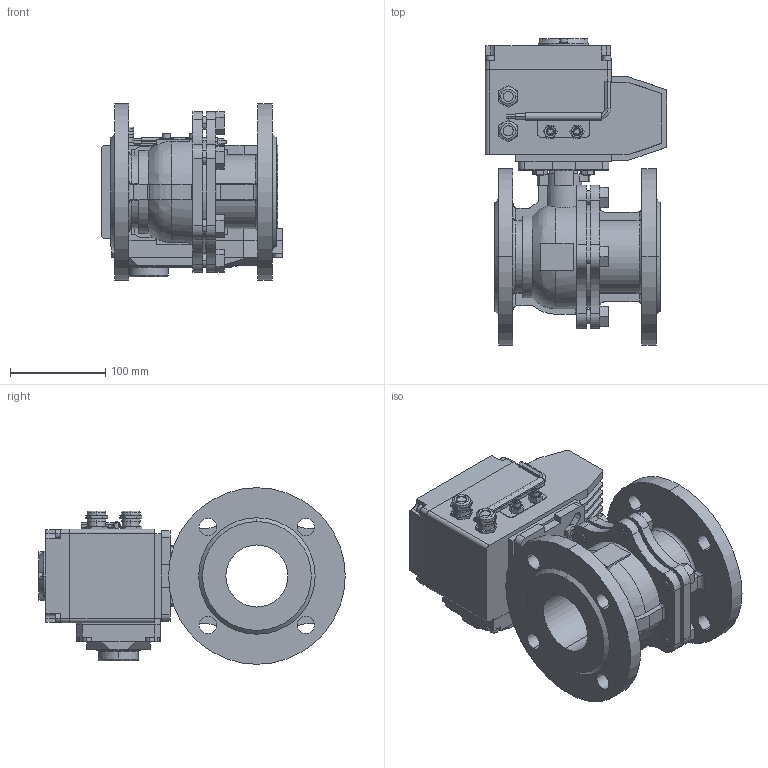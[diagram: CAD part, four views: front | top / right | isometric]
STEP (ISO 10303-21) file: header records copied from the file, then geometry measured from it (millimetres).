
FILE_DESCRIPTION((''),'2;1');
FILE_NAME('BV-22F_EAR_T_ASM','2025-03-03T',('USER'),(''),'PRO/ENGINEER BY PARAMETRIC TECHNOLOGY CORPORATION, 2011220','PRO/ENGINEER BY PARAMETRIC TECHNOLOGY CORPORATION, 2011220','');
FILE_SCHEMA(('CONFIG_CONTROL_DESIGN'));
Length unit declared in the file: millimetre
Products named in the file (15): KORPUS_KRAN_FL; BOLT_M14X25; SB_KRAN_FL_ASM; DET_1; V-11738-M5; V-11738-M4; DET_2; KREPLENIE; KLUCH; DET_3; G-5915-M8; ELECTROPRIVOD_ASM; ELECTROPRIVOD_WITH_DISPLAY_ASM; B-7798-M8-20; BV-22F_EAR_T_ASM
Assembly tree (35 placements, depth 4):
  BV-22F_EAR_T_ASM
    SB_KRAN_FL_ASM
      KORPUS_KRAN_FL
      BOLT_M14X25  x6
    ELECTROPRIVOD_WITH_DISPLAY_ASM
      ELECTROPRIVOD_ASM
        DET_1
        V-11738-M5  x10
        V-11738-M4  x4
        DET_2
        KREPLENIE
        KLUCH
        DET_3
        G-5915-M8  x2
    B-7798-M8-20  x4
Bounding box: 190 x 321 x 185 mm (x, y, z)
Volume: 3772554.4 mm3; surface area: 517009.3 mm2
Topology: 32 solids, 80 shells, 1557 faces, 4061 edges, 2668 vertices
Faces by surface type: plane 966, cylinder 477, cone 86, torus 18, bspline 10
Entity records: 39105 total; most frequent: CARTESIAN_POINT 7653, DIRECTION 6551, ORIENTED_EDGE 6354, EDGE_CURVE 3233, VECTOR 2307, LINE 2307, VERTEX_POINT 2140, AXIS2_PLACEMENT_3D 2122
